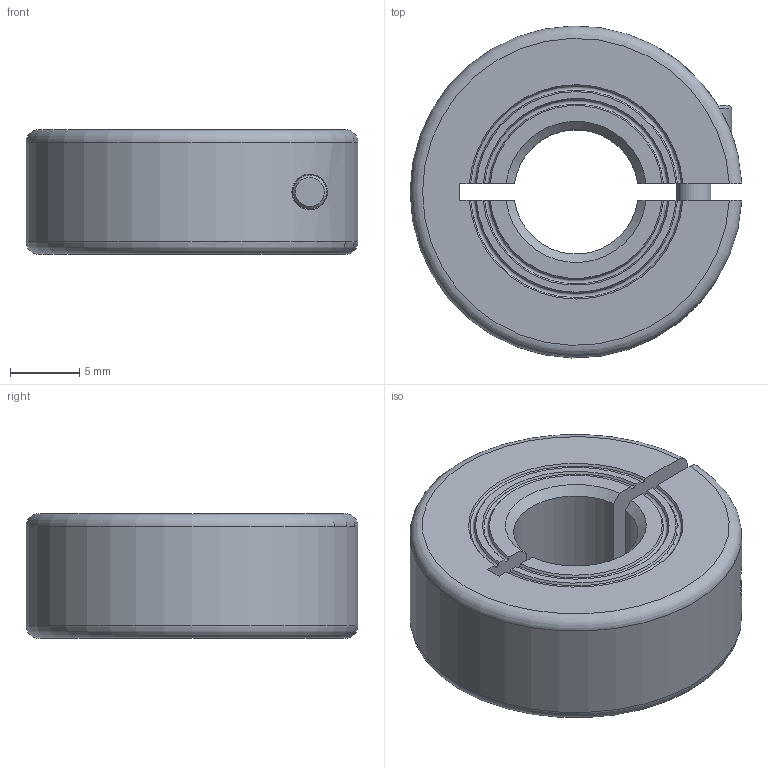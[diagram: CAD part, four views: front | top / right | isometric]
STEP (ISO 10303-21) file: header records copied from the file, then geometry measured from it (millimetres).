
FILE_DESCRIPTION((''),'2;1');
FILE_NAME('MCL-9-F','2016-09-08T',('SYSTEM'),(''),'PRO/ENGINEER BY PARAMETRIC TECHNOLOGY CORPORATION, 2015110','PRO/ENGINEER BY PARAMETRIC TECHNOLOGY CORPORATION, 2015110','');
FILE_SCHEMA(('AUTOMOTIVE_DESIGN { 1 0 10303 214 1 1 1 1 }'));
Length unit declared in the file: inch
Products named in the file (1): MCL-9-F
Bounding box: 23.98 x 23.99 x 9 mm (x, y, z)
Volume: 3243.4 mm3; surface area: 2097.9 mm2
Topology: 1 solids, 1 shells, 57 faces, 148 edges, 98 vertices
Faces by surface type: plane 22, cone 16, cylinder 13, torus 6
Entity records: 2412 total; most frequent: CARTESIAN_POINT 574, ORIENTED_EDGE 296, DIRECTION 272, EDGE_CURVE 148, AXIS2_PLACEMENT_3D 107, VERTEX_POINT 98, EDGE_LOOP 64, VECTOR 58
